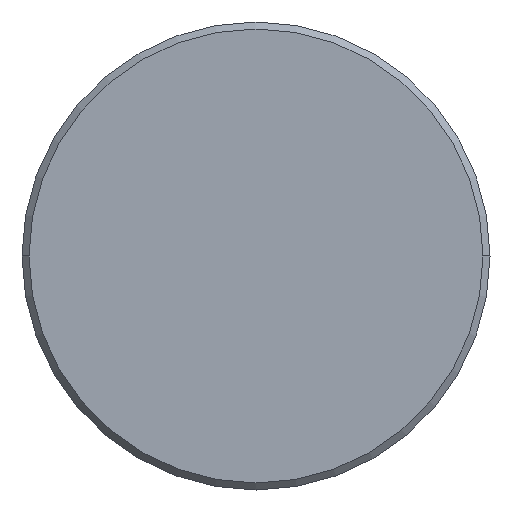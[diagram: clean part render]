
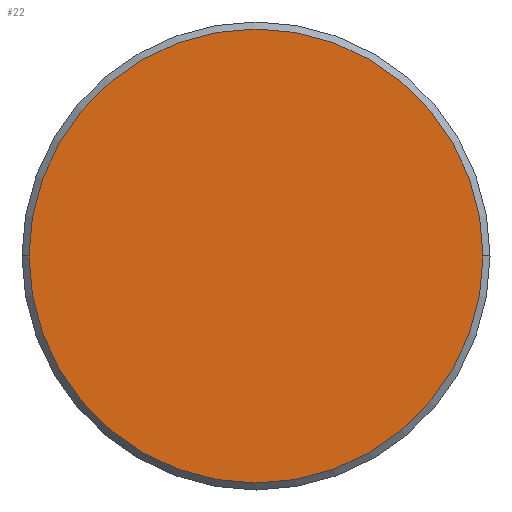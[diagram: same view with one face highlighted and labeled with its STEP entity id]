
A CAD part, left-side view. The second image highlights one B-rep face of the part: STEP entity #22.
In plain terms, the highlighted planar face has unit normal (-1, 0, 0).
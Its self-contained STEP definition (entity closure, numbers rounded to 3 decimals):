
#2 = CIRCLE ( 'NONE', #169, 9.7 ) ;
#18 = CARTESIAN_POINT ( 'NONE',  ( -65., 9.7, 0. ) ) ;
#22 = ADVANCED_FACE ( 'NONE', ( #264 ), #187, .T. ) ;
#24 = ORIENTED_EDGE ( 'NONE', *, *, #156, .F. ) ;
#60 = CIRCLE ( 'NONE', #231, 9.7 ) ;
#89 = DIRECTION ( 'NONE',  ( -1., 0., 0. ) ) ;
#91 = AXIS2_PLACEMENT_3D ( 'NONE', #130, #89, #94 ) ;
#94 = DIRECTION ( 'NONE',  ( 0., -1., 0. ) ) ;
#101 = CARTESIAN_POINT ( 'NONE',  ( -65., 0., 0. ) ) ;
#128 = CARTESIAN_POINT ( 'NONE',  ( -65., 0., 0. ) ) ;
#130 = CARTESIAN_POINT ( 'NONE',  ( -65., 0., 0. ) ) ;
#131 = DIRECTION ( 'NONE',  ( 0., 1., 0. ) ) ;
#156 = EDGE_CURVE ( 'NONE', #352, #318, #2, .T. ) ;
#162 = DIRECTION ( 'NONE',  ( 0., 1., 0. ) ) ;
#169 = AXIS2_PLACEMENT_3D ( 'NONE', #128, #302, #162 ) ;
#184 = EDGE_CURVE ( 'NONE', #318, #352, #60, .T. ) ;
#187 = PLANE ( 'NONE',  #91 ) ;
#222 = EDGE_LOOP ( 'NONE', ( #24, #345 ) ) ;
#231 = AXIS2_PLACEMENT_3D ( 'NONE', #101, #285, #131 ) ;
#264 = FACE_OUTER_BOUND ( 'NONE', #222, .T. ) ;
#266 = CARTESIAN_POINT ( 'NONE',  ( -65., -9.7, 0. ) ) ;
#285 = DIRECTION ( 'NONE',  ( 1., 0., 0. ) ) ;
#302 = DIRECTION ( 'NONE',  ( 1., 0., 0. ) ) ;
#318 = VERTEX_POINT ( 'NONE', #266 ) ;
#345 = ORIENTED_EDGE ( 'NONE', *, *, #184, .F. ) ;
#352 = VERTEX_POINT ( 'NONE', #18 ) ;
